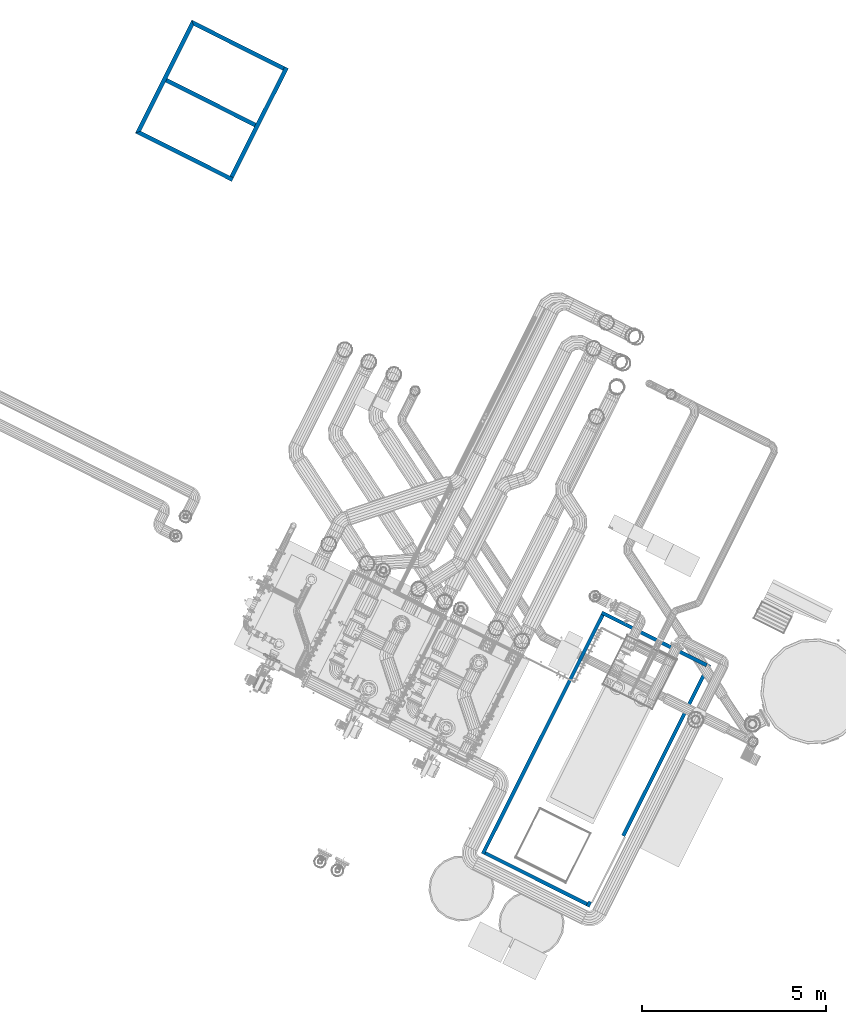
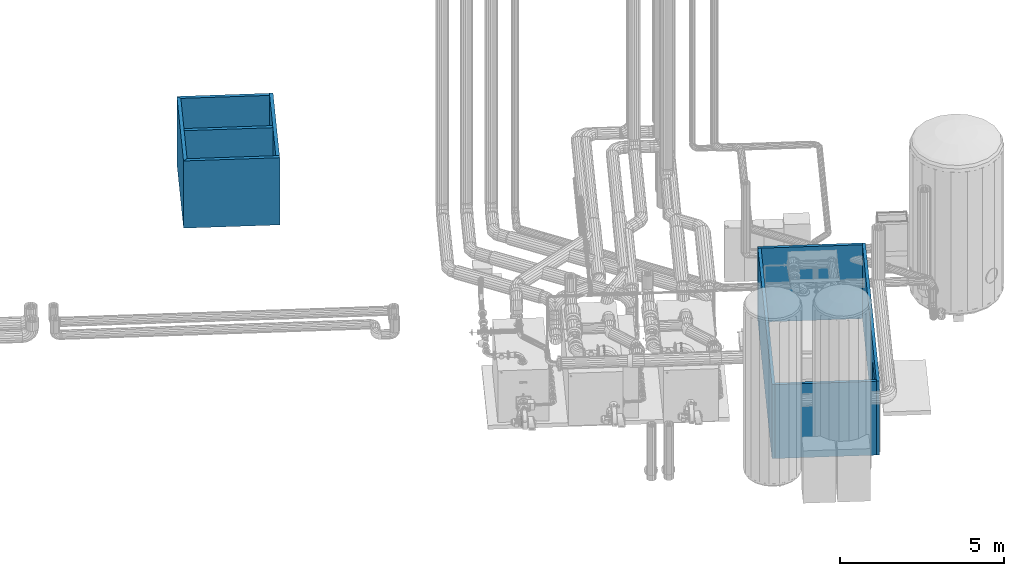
# One storey, part 1 of 206: 9 walls, 1 opening.
"""IFC2X3 building model written with IfcOpenShell, lengths in metres."""

from ifc_helpers import new_model, si_unit, derived_unit, direction, frame, frame_2d, origin, place, context, subcontext, project, spatial, polyline, rectangle, outline, extrude, material, layer, layer_set, layer_usage, type_object, element, save


model = new_model("IFC2X3")

# Units and contexts
model_context = context("Model", 3, precision=5.2338327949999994e-05, world=origin(), true_north=direction((0.0, 1.0)))
body_context = subcontext(model_context, "Body", "Model", "MODEL_VIEW")
ifc_project = project(units=[si_unit("LENGTHUNIT", "METRE"), si_unit("AREAUNIT", "SQUARE_METRE"), si_unit("VOLUMEUNIT", "CUBIC_METRE"), si_unit("MASSUNIT", "GRAM", prefix="KILO"), si_unit("PLANEANGLEUNIT", "RADIAN"), derived_unit("THERMALTRANSMITTANCEUNIT", [(si_unit("MASSUNIT", "GRAM", prefix="KILO"), 1), (si_unit("THERMODYNAMICTEMPERATUREUNIT", "KELVIN"), -1), (si_unit("TIMEUNIT", "SECOND"), -3)])], contexts=[model_context])

# Site, building, storey
site_placement = place(None, frame((0.0, 0.0, 0.0), z_axis=(0.0, 0.0, 1.0), x_axis=(0.8939966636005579, -0.4480736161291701, 0.0)))
site = spatial("IfcSite", under=ifc_project, at=site_placement, Name="Default", CompositionType="ELEMENT")
building_placement = place(site_placement, origin())
building = spatial("IfcBuilding", under=site, at=building_placement, CompositionType="ELEMENT")
storey_placement = place(building_placement, origin())
storey = spatial("IfcBuildingStorey", under=building, at=storey_placement, Name="Erdgeschoss", CompositionType="ELEMENT", Elevation=0.0)

# Walls
ifc_material = material(Name="KS")
ifc_layer_1 = layer(ifc_material, 0.115)
ifc_layer_set_1 = layer_set([ifc_layer_1], Name="Basiswand:Wand")
ifc_layer_usage_1 = layer_usage(ifc_layer_set_1, "AXIS2", "NEGATIVE", 0.0575)
wall_type_1 = type_object("IfcWallType", Name="Basiswand:Wand", PredefinedType="STANDARD", material=ifc_layer_set_1)
wall_1_placement = place(storey_placement, frame((11.724921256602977, 16.119895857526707, 0.0)))
element("IfcWallStandardCase", 1, at=wall_1_placement, inside=storey, type_object=wall_type_1, material=ifc_layer_usage_1, Name="Wand", ObjectType="Wand", context=body_context, shape_type="SweptSolid", body=[
    extrude(outline(polyline([(2.9375000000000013, -0.057499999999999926), (2.9375000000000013, 0.057499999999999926), (2.8225000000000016, 0.057499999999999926), (0.11499999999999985, 0.057499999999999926), (0.0, -0.057499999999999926), (2.9375000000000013, -0.057499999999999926)])), origin(), (0.0, 0.0, 1.0), 2.4999999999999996),
])
ifc_layer_usage_2 = layer_usage(ifc_layer_set_1, "AXIS2", "NEGATIVE", 0.0575)
wall_2_placement = place(storey_placement, frame((14.547421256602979, 19.442395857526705, 0.0), z_axis=(0.0, 0.0, 1.0), x_axis=(-1.0, 0.0, 0.0)))
element("IfcWallStandardCase", 2, at=wall_2_placement, inside=storey, type_object=wall_type_1, material=ifc_layer_usage_2, Name="Wand", ObjectType="Wand", context=body_context, shape_type="SweptSolid", body=[
    extrude(outline(polyline([(2.8225000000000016, -0.057499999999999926), (2.707500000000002, 0.057499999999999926), (0.0, 0.057499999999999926), (0.0, -0.057499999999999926), (2.8225000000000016, -0.057499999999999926)])), origin(), (0.0, 0.0, 1.0), 2.4999999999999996),
])
ifc_layer_usage_3 = layer_usage(ifc_layer_set_1, "AXIS2", "NEGATIVE", 0.0575)
wall_3_placement = place(storey_placement, frame((11.782421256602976, 19.499895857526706, 0.0), z_axis=(0.0, 0.0, 1.0), x_axis=(0.0, -1.0, 0.0)))
element("IfcWallStandardCase", 3, at=wall_3_placement, inside=storey, type_object=wall_type_1, material=ifc_layer_usage_3, Name="Wand", ObjectType="Wand", context=body_context, shape_type="SweptSolid", body=[
    extrude(outline(polyline([(3.4374999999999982, -0.057499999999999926), (3.3224999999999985, 0.057499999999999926), (1.833750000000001, 0.057499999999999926), (1.7187500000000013, 0.057499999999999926), (0.11499999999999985, 0.057499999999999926), (0.0, -0.057499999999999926), (3.4374999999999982, -0.057499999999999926)])), origin(), (0.0, 0.0, 1.0), 2.4999999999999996),
])
ifc_layer_usage_4 = layer_usage(ifc_layer_set_1, "AXIS2", "NEGATIVE", 0.0575)
wall_4_placement = place(storey_placement, frame((14.604921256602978, 16.177395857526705, 0.0), z_axis=(0.0, 0.0, 1.0), x_axis=(0.0, 1.0, 0.0)))
element("IfcWallStandardCase", 4, at=wall_4_placement, inside=storey, type_object=wall_type_1, material=ifc_layer_usage_4, Name="Wand", ObjectType="Wand", context=body_context, shape_type="SweptSolid", body=[
    extrude(rectangle(XDim=3.3224999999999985, YDim=0.11499999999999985, at=frame_2d((1.6612499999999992, 0.0), x_axis=(-1.0, 0.0))), origin(), (0.0, 0.0, 1.0), 2.4999999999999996),
])
ifc_layer_usage_5 = layer_usage(ifc_layer_set_1, "AXIS2", "NEGATIVE", 0.0575)
wall_5_placement = place(storey_placement, frame((11.839921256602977, 17.723645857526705, 0.0)))
element("IfcWallStandardCase", 5, at=wall_5_placement, inside=storey, type_object=wall_type_1, material=ifc_layer_usage_5, Name="Wand", ObjectType="Wand", context=body_context, shape_type="SweptSolid", body=[
    extrude(rectangle(XDim=2.707500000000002, YDim=0.11499999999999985, at=frame_2d((1.353750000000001, 0.0), x_axis=(-1.0, 0.0))), origin(), (0.0, 0.0, 1.0), 2.4999999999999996),
])

# Wall, opening
ifc_layer_2 = layer(ifc_material, 0.1)
ifc_layer_set_2 = layer_set([ifc_layer_2], Name="Basiswand:Wand:1000")
ifc_layer_usage_6 = layer_usage(ifc_layer_set_2, "AXIS2", "NEGATIVE", 0.05)
wall_type_2 = type_object("IfcWallType", Name="Basiswand:Wand:1000", PredefinedType="STANDARD", material=ifc_layer_set_2)
wall_6_placement = place(storey_placement, frame((32.14039487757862, 10.143208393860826, 0.0), z_axis=(0.0, 0.0, 1.0), x_axis=(0.0, -1.0, 0.0)))
wall_6 = element("IfcWallStandardCase", 6, at=wall_6_placement, inside=storey, type_object=wall_type_2, material=ifc_layer_usage_6, Name="Wand", ObjectType="Wand", context=body_context, shape_type="SweptSolid", body=[
    extrude(rectangle(XDim=7.36134, YDim=0.10000000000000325, at=frame_2d((3.68067, 0.0), x_axis=(-1.0, 0.0))), origin(), (0.0, 0.0, 1.0), 2.7499999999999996),
])
opening_placement = place(wall_6_placement, frame((10.143208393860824, -32.14039487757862, 0.0), z_axis=(0.0, 0.0, 1.0), x_axis=(0.0, 1.0, 0.0)))
element("IfcOpeningElement", 7, at=opening_placement, cuts=wall_6, Name="Tür", ObjectType="Opening", context=body_context, shape_type="SweptSolid", body=[
    extrude(rectangle(XDim=2.1, YDim=2.0, at=frame_2d((0.0, 0.0), x_axis=(0.0, 1.0))), frame((32.08929487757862, 3.931870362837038, 1.05), z_axis=(1.0, 0.0, 0.0), x_axis=(0.0, 1.0, 0.0)), (0.0, 0.0, 1.0), 0.11220000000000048),
])

# Walls
ifc_layer_usage_7 = layer_usage(ifc_layer_set_2, "AXIS2", "NEGATIVE", 0.05)
wall_7_placement = place(storey_placement, frame((28.900000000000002, 10.093208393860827, 0.0)))
element("IfcWallStandardCase", 8, at=wall_7_placement, inside=storey, type_object=wall_type_2, material=ifc_layer_usage_7, Name="Wand", ObjectType="Wand", context=body_context, shape_type="SweptSolid", body=[
    extrude(rectangle(XDim=3.1903948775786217, YDim=0.09999999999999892, at=frame_2d((1.5951974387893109, 0.0), x_axis=(-1.0, 0.0))), origin(), (0.0, 0.0, 1.0), 2.7499999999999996),
])
ifc_layer_usage_8 = layer_usage(ifc_layer_set_2, "AXIS2", "NEGATIVE", 0.05)
wall_8_placement = place(storey_placement, frame((28.950000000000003, 2.7818683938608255, 0.0), z_axis=(0.0, 0.0, 1.0), x_axis=(0.0, 1.0, 0.0)))
element("IfcWallStandardCase", 9, at=wall_8_placement, inside=storey, type_object=wall_type_2, material=ifc_layer_usage_8, Name="Wand", ObjectType="Wand", context=body_context, shape_type="SweptSolid", body=[
    extrude(rectangle(XDim=7.26134, YDim=0.10000000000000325, at=frame_2d((3.63067, 0.0), x_axis=(-1.0, 0.0))), origin(), (0.0, 0.0, 1.0), 2.7499999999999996),
])
ifc_layer_usage_9 = layer_usage(ifc_layer_set_2, "AXIS2", "NEGATIVE", 0.05)
wall_9_placement = place(storey_placement, frame((32.090394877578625, 2.8318683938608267, 0.0), z_axis=(0.0, 0.0, 1.0), x_axis=(-1.0, 0.0, 0.0)))
element("IfcWallStandardCase", 10, at=wall_9_placement, inside=storey, type_object=wall_type_2, material=ifc_layer_usage_9, Name="Wand", ObjectType="Wand", context=body_context, shape_type="SweptSolid", body=[
    extrude(rectangle(XDim=3.090394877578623, YDim=0.1, at=frame_2d((1.5451974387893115, 1.734723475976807e-17), x_axis=(-1.0, 0.0))), origin(), (0.0, 0.0, 1.0), 2.7499999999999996),
])

save(model, "model.ifc")
